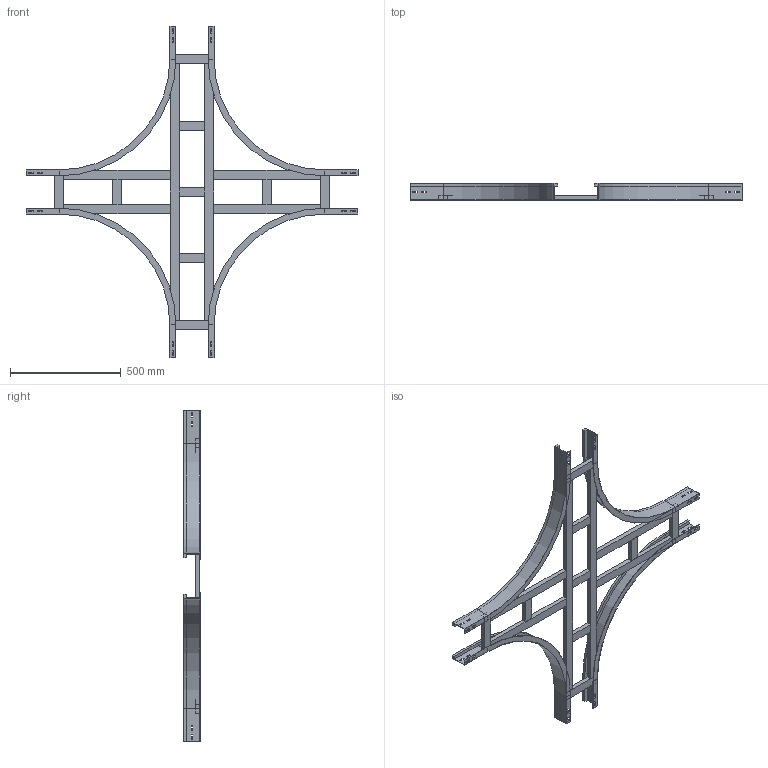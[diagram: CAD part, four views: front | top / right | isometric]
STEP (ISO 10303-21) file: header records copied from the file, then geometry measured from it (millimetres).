
FILE_DESCRIPTION (( 'STEP AP214' ), '1' );
FILE_NAME ('17B5C200.step', '2025-02-21T15:57:40', ( '' ), ( '' ), 'SwSTEP 2.0', 'SolidWorks 2023', '' );
FILE_SCHEMA (( 'AUTOMOTIVE_DESIGN' ));
Length unit declared in the file: millimetre
Products named in the file (7): TRAVERSINO_200; TRAVERSINO_COPPIA_200; 17B5C200; LONGH.INTERNO 90°_H75_R500; TRAVERSINO_INTERMEDIO_R500+200; TRAVERSINO_VERT_R500; TRAVERSINO_LONG._R500+200
Assembly tree (19 placements, depth 2):
  17B5C200
    LONGH.INTERNO 90°_H75_R500  x4
    TRAVERSINO_200  x4
    TRAVERSINO_LONG._R500+200  x2
    TRAVERSINO_INTERMEDIO_R500+200  x3
    TRAVERSINO_VERT_R500  x4
    TRAVERSINO_COPPIA_200  x2
Bounding box: 1500 x 75 x 1500 mm (x, y, z)
Volume: 6249659.8 mm3; surface area: 1733166.9 mm2
Topology: 19 solids, 19 shells, 322 faces, 788 edges, 504 vertices
Faces by surface type: plane 306, cylinder 16
Entity records: 2852 total; most frequent: CARTESIAN_POINT 458, DIRECTION 440, ORIENTED_EDGE 424, EDGE_CURVE 212, VECTOR 204, LINE 204, VERTEX_POINT 136, AXIS2_PLACEMENT_3D 118
